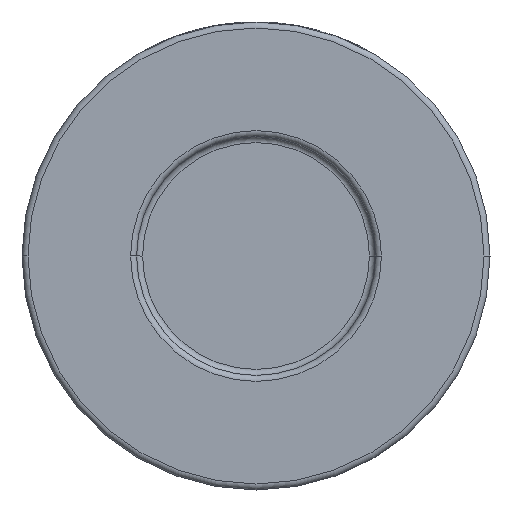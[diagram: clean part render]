
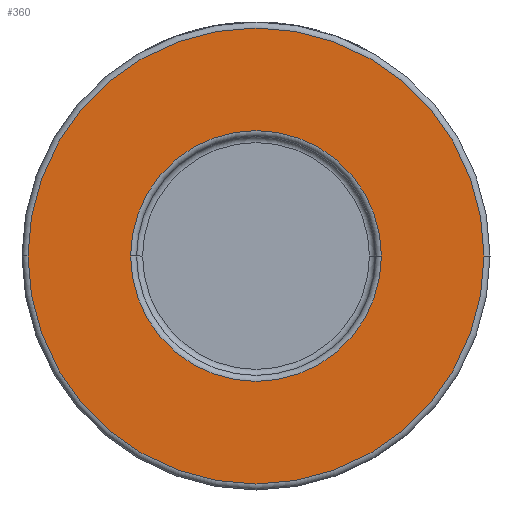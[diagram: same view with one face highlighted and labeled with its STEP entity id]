
A CAD part, front view. The second image highlights one B-rep face of the part: STEP entity #360.
In plain terms, the highlighted planar face has unit normal (0, -1, 0).
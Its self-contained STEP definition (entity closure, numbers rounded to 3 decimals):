
#90 = CIRCLE ( 'NONE', #1496, 38. ) ;
#249 = DIRECTION ( 'NONE',  ( 1., 0., 0. ) ) ;
#360 = ADVANCED_FACE ( 'NONE', ( #4141, #3441 ), #1660, .T. ) ;
#551 = ORIENTED_EDGE ( 'NONE', *, *, #1915, .T. ) ;
#652 = AXIS2_PLACEMENT_3D ( 'NONE', #4341, #4363, #3427 ) ;
#684 = AXIS2_PLACEMENT_3D ( 'NONE', #2493, #4255, #3528 ) ;
#687 = DIRECTION ( 'NONE',  ( 0., 1., 0. ) ) ;
#875 = ORIENTED_EDGE ( 'NONE', *, *, #3099, .T. ) ;
#887 = ORIENTED_EDGE ( 'NONE', *, *, #2862, .T. ) ;
#1099 = ORIENTED_EDGE ( 'NONE', *, *, #2729, .T. ) ;
#1425 = DIRECTION ( 'NONE',  ( 1., 0., 0. ) ) ;
#1450 = DIRECTION ( 'NONE',  ( 1., 0., 0. ) ) ;
#1496 = AXIS2_PLACEMENT_3D ( 'NONE', #3995, #2146, #1450 ) ;
#1513 = VERTEX_POINT ( 'NONE', #3302 ) ;
#1599 = VERTEX_POINT ( 'NONE', #2392 ) ;
#1660 = PLANE ( 'NONE',  #3055 ) ;
#1674 = CARTESIAN_POINT ( 'NONE',  ( 38., -26., 0. ) ) ;
#1915 = EDGE_CURVE ( 'NONE', #2760, #1513, #4497, .T. ) ;
#2145 = EDGE_LOOP ( 'NONE', ( #1099, #875 ) ) ;
#2146 = DIRECTION ( 'NONE',  ( 0., -1., 0. ) ) ;
#2392 = CARTESIAN_POINT ( 'NONE',  ( -20.9, -26., 0. ) ) ;
#2493 = CARTESIAN_POINT ( 'NONE',  ( 0., -26., 0. ) ) ;
#2729 = EDGE_CURVE ( 'NONE', #2752, #1599, #4383, .T. ) ;
#2752 = VERTEX_POINT ( 'NONE', #3437 ) ;
#2760 = VERTEX_POINT ( 'NONE', #1674 ) ;
#2829 = CIRCLE ( 'NONE', #684, 20.9 ) ;
#2862 = EDGE_CURVE ( 'NONE', #1513, #2760, #90, .T. ) ;
#3031 = EDGE_LOOP ( 'NONE', ( #551, #887 ) ) ;
#3038 = AXIS2_PLACEMENT_3D ( 'NONE', #3533, #687, #1425 ) ;
#3055 = AXIS2_PLACEMENT_3D ( 'NONE', #3727, #3774, #249 ) ;
#3099 = EDGE_CURVE ( 'NONE', #1599, #2752, #2829, .T. ) ;
#3302 = CARTESIAN_POINT ( 'NONE',  ( -38., -26., 0. ) ) ;
#3427 = DIRECTION ( 'NONE',  ( 1., 0., 0. ) ) ;
#3437 = CARTESIAN_POINT ( 'NONE',  ( 20.9, -26., 0. ) ) ;
#3441 = FACE_OUTER_BOUND ( 'NONE', #3031, .T. ) ;
#3528 = DIRECTION ( 'NONE',  ( 1., 0., 0. ) ) ;
#3533 = CARTESIAN_POINT ( 'NONE',  ( 0., -26., 0. ) ) ;
#3727 = CARTESIAN_POINT ( 'NONE',  ( 39., -26., 0. ) ) ;
#3774 = DIRECTION ( 'NONE',  ( 0., -1., 0. ) ) ;
#3995 = CARTESIAN_POINT ( 'NONE',  ( 0., -26., 0. ) ) ;
#4141 = FACE_BOUND ( 'NONE', #2145, .T. ) ;
#4255 = DIRECTION ( 'NONE',  ( 0., 1., 0. ) ) ;
#4341 = CARTESIAN_POINT ( 'NONE',  ( 0., -26., 0. ) ) ;
#4363 = DIRECTION ( 'NONE',  ( 0., -1., 0. ) ) ;
#4383 = CIRCLE ( 'NONE', #3038, 20.9 ) ;
#4497 = CIRCLE ( 'NONE', #652, 38. ) ;
